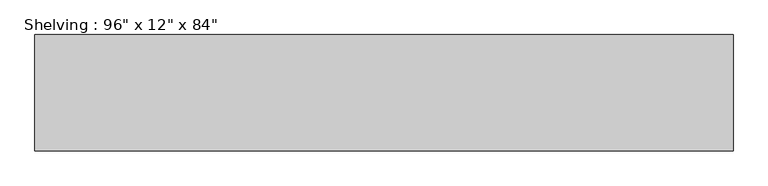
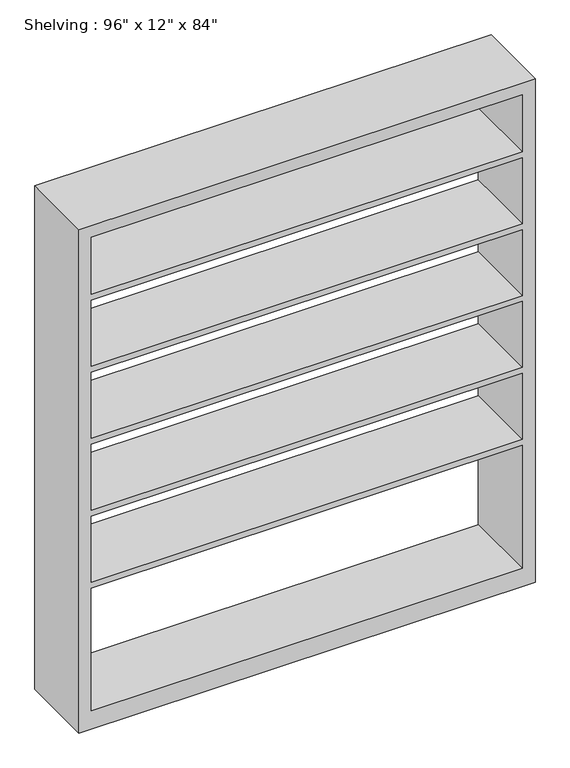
"""IFC4 building model written with IfcOpenShell, lengths in millimetres: furniture geometry."""

from ifc_helpers import new_model, si_unit, frame, origin, place, context, project, spatial, polyline, outline, extrude, source, transform, mapped, element, save


def furniture_6d145fab(model_context):
    return source(origin(), model_context, "Body", "SweptSolid", [
        extrude(outline(polyline([(0.0, 914.4), (2133.6, 914.4), (2133.6, -914.4), (0.0, -914.4), (0.0, 914.4)]), holes=[polyline([(2082.8, 863.6), (1841.5, 863.6), (1841.5, -863.6), (2082.8, -863.6), (2082.8, 863.6)]), polyline([(76.2, 863.6), (76.2, -863.6), (596.9, -863.6), (596.9, 863.6), (76.2, 863.6)]), polyline([(1231.9, -863.6), (1511.3, -863.6), (1511.3, 863.6), (1231.9, 863.6), (1231.9, -863.6)]), polyline([(1816.1, 863.6), (1536.7, 863.6), (1536.7, -863.6), (1816.1, -863.6), (1816.1, 863.6)]), polyline([(1206.5, 863.6), (927.1, 863.6), (927.1, -863.6), (1206.5, -863.6), (1206.5, 863.6)]), polyline([(901.7, 863.6), (622.3, 863.6), (622.3, -863.6), (901.7, -863.6), (901.7, 863.6)])]), frame((0.0, 152.4, 0.0), z_axis=(0.0, 1.0, 0.0), x_axis=(0.0, 0.0, 1.0)), (0.0, 0.0, 1.0), 304.8),
    ])


if __name__ == "__main__":
    model = new_model("IFC4")
    model_context = context("Model", 3, world=origin())
    ifc_project = project(units=[si_unit("LENGTHUNIT", "METRE", prefix="MILLI")], contexts=[model_context])
    site = spatial("IfcSite", under=ifc_project)
    building = spatial("IfcBuilding", under=site)
    placement = place(None, origin())
    furniture_shape = furniture_6d145fab(model_context)
    element("IfcFurniture", 1, ObjectType="Shelving : 96\" x 12\" x 84\"", at=placement, inside=building, context=model_context, shape_type="MappedRepresentation", body=[
        mapped(furniture_shape, transform((0.0, 0.0, 0.0), x_axis=(1.0, 0.0, 0.0), y_axis=(0.0, 1.0, 0.0), z_axis=(0.0, 0.0, 1.0))),
    ])
    save(model, "model.ifc")
